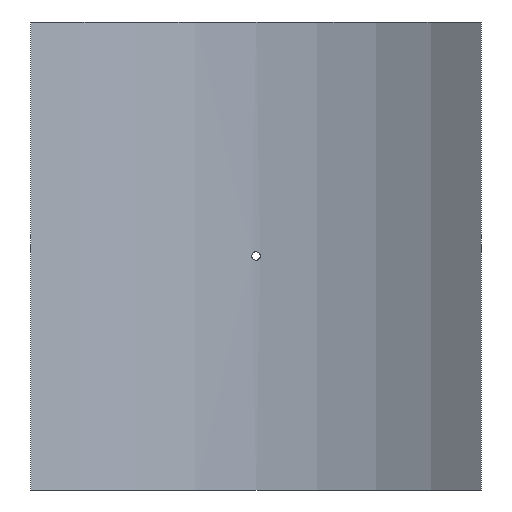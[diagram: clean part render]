
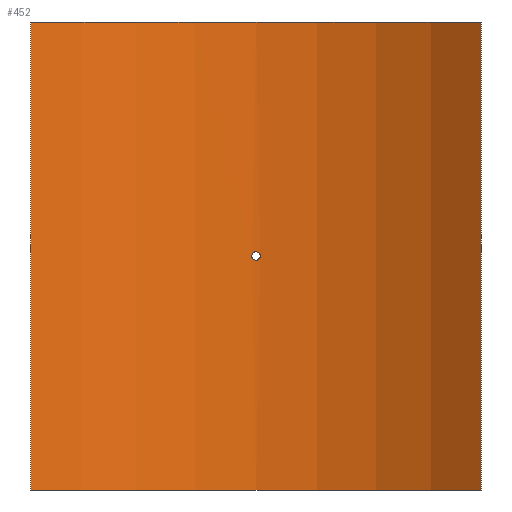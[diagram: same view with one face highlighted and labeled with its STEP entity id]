
A CAD part, front view. The second image highlights one B-rep face of the part: STEP entity #452.
In plain terms, the highlighted cylindrical face has radius 400 mm (diameter 800 mm), a partial arc.
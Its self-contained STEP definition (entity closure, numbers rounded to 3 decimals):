
#19=B_SPLINE_CURVE_WITH_KNOTS('',3,(#788,#789,#790,#791,#792,#793,#794,
#795,#796,#797,#798,#799,#800,#801,#802,#803,#804,#805,#806,#807,#808,#809,
#810,#811,#812,#813,#814,#815,#816,#817,#818,#819,#820,#821),
 .UNSPECIFIED.,.T.,.F.,(4,2,2,2,2,2,2,2,2,2,2,2,2,2,2,2,4),(0.,0.181,
0.362,0.542,0.723,0.904,1.085,
1.266,1.446,1.627,1.808,1.989,
2.17,2.351,2.531,2.712,2.893),
 .UNSPECIFIED.);
#43=LINE('',#1065,#62);
#44=LINE('',#1068,#63);
#62=VECTOR('',#661,10.);
#63=VECTOR('',#664,10.);
#76=CYLINDRICAL_SURFACE('',#530,400.);
#88=FACE_BOUND('',#167,.T.);
#127=FACE_OUTER_BOUND('',#166,.T.);
#166=EDGE_LOOP('',(#405,#406,#407,#408));
#167=EDGE_LOOP('',(#409));
#201=CIRCLE('',#529,400.);
#202=CIRCLE('',#531,400.);
#219=VERTEX_POINT('',#786);
#242=VERTEX_POINT('',#1058);
#243=VERTEX_POINT('',#1060);
#244=VERTEX_POINT('',#1064);
#245=VERTEX_POINT('',#1066);
#267=EDGE_CURVE('',#219,#219,#19,.T.);
#299=EDGE_CURVE('',#242,#243,#201,.T.);
#301=EDGE_CURVE('',#244,#242,#43,.T.);
#302=EDGE_CURVE('',#245,#244,#202,.T.);
#303=EDGE_CURVE('',#245,#243,#44,.T.);
#405=ORIENTED_EDGE('',*,*,#301,.F.);
#406=ORIENTED_EDGE('',*,*,#302,.F.);
#407=ORIENTED_EDGE('',*,*,#303,.T.);
#408=ORIENTED_EDGE('',*,*,#299,.F.);
#409=ORIENTED_EDGE('',*,*,#267,.T.);
#452=ADVANCED_FACE('',(#127,#88),#76,.F.);
#529=AXIS2_PLACEMENT_3D('',#1061,#656,#657);
#530=AXIS2_PLACEMENT_3D('',#1063,#659,#660);
#531=AXIS2_PLACEMENT_3D('',#1067,#662,#663);
#656=DIRECTION('center_axis',(0.,0.,1.));
#657=DIRECTION('ref_axis',(0.637,0.77,0.));
#659=DIRECTION('center_axis',(0.,0.,1.));
#660=DIRECTION('ref_axis',(0.637,0.77,0.));
#661=DIRECTION('',(0.,0.,-1.));
#662=DIRECTION('center_axis',(0.,0.,-1.));
#663=DIRECTION('ref_axis',(0.637,0.77,0.));
#664=DIRECTION('',(0.,0.,-1.));
#786=CARTESIAN_POINT('',(4.8,399.971,0.));
#788=CARTESIAN_POINT('Ctrl Pts',(4.8,399.971,0.));
#789=CARTESIAN_POINT('Ctrl Pts',(4.8,399.971,-0.603));
#790=CARTESIAN_POINT('Ctrl Pts',(4.68,399.973,-1.246));
#791=CARTESIAN_POINT('Ctrl Pts',(4.19,399.978,-2.428));
#792=CARTESIAN_POINT('Ctrl Pts',(3.82,399.982,-2.968));
#793=CARTESIAN_POINT('Ctrl Pts',(2.968,399.989,-3.82));
#794=CARTESIAN_POINT('Ctrl Pts',(2.428,399.993,-4.19));
#795=CARTESIAN_POINT('Ctrl Pts',(1.246,399.998,-4.68));
#796=CARTESIAN_POINT('Ctrl Pts',(0.603,400.,-4.8));
#797=CARTESIAN_POINT('Ctrl Pts',(-0.603,400.,-4.8));
#798=CARTESIAN_POINT('Ctrl Pts',(-1.246,399.998,-4.68));
#799=CARTESIAN_POINT('Ctrl Pts',(-2.428,399.993,-4.19));
#800=CARTESIAN_POINT('Ctrl Pts',(-2.968,399.989,-3.82));
#801=CARTESIAN_POINT('Ctrl Pts',(-3.82,399.982,-2.968));
#802=CARTESIAN_POINT('Ctrl Pts',(-4.19,399.978,-2.428));
#803=CARTESIAN_POINT('Ctrl Pts',(-4.68,399.973,-1.246));
#804=CARTESIAN_POINT('Ctrl Pts',(-4.8,399.971,-0.603));
#805=CARTESIAN_POINT('Ctrl Pts',(-4.8,399.971,0.603));
#806=CARTESIAN_POINT('Ctrl Pts',(-4.68,399.973,1.246));
#807=CARTESIAN_POINT('Ctrl Pts',(-4.19,399.978,2.428));
#808=CARTESIAN_POINT('Ctrl Pts',(-3.82,399.982,2.968));
#809=CARTESIAN_POINT('Ctrl Pts',(-2.968,399.989,3.82));
#810=CARTESIAN_POINT('Ctrl Pts',(-2.428,399.993,4.19));
#811=CARTESIAN_POINT('Ctrl Pts',(-1.246,399.998,4.68));
#812=CARTESIAN_POINT('Ctrl Pts',(-0.603,400.,4.8));
#813=CARTESIAN_POINT('Ctrl Pts',(0.603,400.,4.8));
#814=CARTESIAN_POINT('Ctrl Pts',(1.246,399.998,4.68));
#815=CARTESIAN_POINT('Ctrl Pts',(2.428,399.993,4.19));
#816=CARTESIAN_POINT('Ctrl Pts',(2.968,399.989,3.82));
#817=CARTESIAN_POINT('Ctrl Pts',(3.82,399.982,2.968));
#818=CARTESIAN_POINT('Ctrl Pts',(4.19,399.978,2.428));
#819=CARTESIAN_POINT('Ctrl Pts',(4.68,399.973,1.246));
#820=CARTESIAN_POINT('Ctrl Pts',(4.8,399.971,0.603));
#821=CARTESIAN_POINT('Ctrl Pts',(4.8,399.971,0.));
#1058=CARTESIAN_POINT('',(255.,308.18,-265.));
#1060=CARTESIAN_POINT('',(-255.,308.18,-265.));
#1061=CARTESIAN_POINT('Origin',(0.,0.,
-265.));
#1063=CARTESIAN_POINT('Origin',(0.,0.,
0.));
#1064=CARTESIAN_POINT('',(255.,308.18,265.));
#1065=CARTESIAN_POINT('',(255.,308.18,0.));
#1066=CARTESIAN_POINT('',(-255.,308.18,265.));
#1067=CARTESIAN_POINT('Origin',(0.,0.,
265.));
#1068=CARTESIAN_POINT('',(-255.,308.18,0.));
